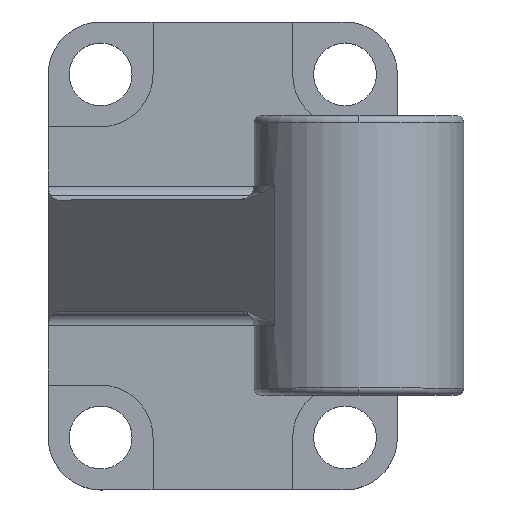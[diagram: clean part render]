
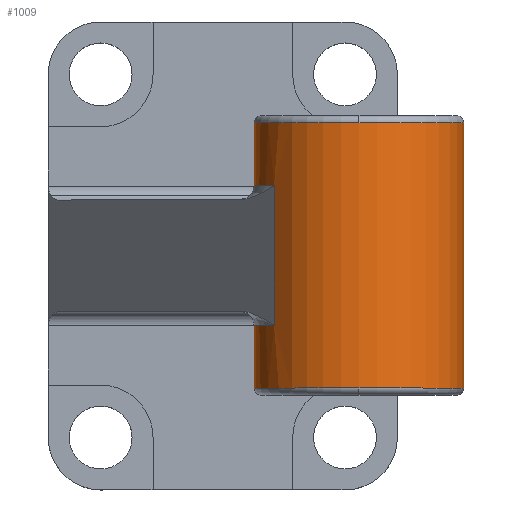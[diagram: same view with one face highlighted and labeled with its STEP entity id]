
A CAD part, top view. The second image highlights one B-rep face of the part: STEP entity #1009.
In plain terms, the highlighted cylindrical face has radius 15 mm (diameter 30 mm), a partial arc.
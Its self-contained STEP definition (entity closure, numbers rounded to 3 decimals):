
#428=CARTESIAN_POINT('',(13.,-18.,46.0));
#429=VERTEX_POINT('',#428);
#437=CARTESIAN_POINT('',(15.839,-18.,54.782));
#438=VERTEX_POINT('',#437);
#439=CARTESIAN_POINT('',(28.,-18.,46.0));
#440=DIRECTION('',(0.0,1.,0.0));
#441=DIRECTION('',(-0.434,0.0,-0.901));
#442=AXIS2_PLACEMENT_3D('',#439,#440,#441);
#443=CIRCLE('',#442,15.0);
#444=EDGE_CURVE('',#429,#438,#443,.T.);
#602=CARTESIAN_POINT('',(15.839,2.,54.782));
#603=VERTEX_POINT('',#602);
#657=CARTESIAN_POINT('',(13.,2.,46.0));
#658=VERTEX_POINT('',#657);
#659=CARTESIAN_POINT('',(28.,2.,46.0));
#660=DIRECTION('',(0.0,-1.0,0.0));
#661=DIRECTION('',(-0.434,0.0,-0.901));
#662=AXIS2_PLACEMENT_3D('',#659,#660,#661);
#663=CIRCLE('',#662,15.0);
#664=EDGE_CURVE('',#603,#658,#663,.T.);
#767=CARTESIAN_POINT('',(28.,-27.,61.0));
#768=VERTEX_POINT('',#767);
#803=CARTESIAN_POINT('',(43.,-27.,46.0));
#804=VERTEX_POINT('',#803);
#812=CARTESIAN_POINT('',(28.,-27.,46.0));
#813=DIRECTION('',(0.0,-1.0,0.0));
#814=DIRECTION('',(-1.0,0.0,0.0));
#815=AXIS2_PLACEMENT_3D('',#812,#813,#814);
#816=CIRCLE('',#815,15.0);
#817=EDGE_CURVE('',#804,#768,#816,.T.);
#827=CARTESIAN_POINT('',(43.,11.,46.0));
#828=VERTEX_POINT('',#827);
#829=CARTESIAN_POINT('',(43.,-27.,46.0));
#830=DIRECTION('',(0.0,1.0,0.0));
#831=VECTOR('',#830,38.0);
#832=LINE('',#829,#831);
#833=EDGE_CURVE('',#804,#828,#832,.T.);
#836=CARTESIAN_POINT('',(13.,-27.,46.0));
#837=VERTEX_POINT('',#836);
#845=CARTESIAN_POINT('',(13.,-18.,46.0));
#846=DIRECTION('',(0.0,-1.0,0.0));
#847=VECTOR('',#846,9.0);
#848=LINE('',#845,#847);
#849=EDGE_CURVE('',#429,#837,#848,.T.);
#877=CARTESIAN_POINT('',(13.,11.,46.0));
#878=VERTEX_POINT('',#877);
#879=CARTESIAN_POINT('',(13.,11.,46.0));
#880=DIRECTION('',(0.0,-1.0,0.0));
#881=VECTOR('',#880,9.0);
#882=LINE('',#879,#881);
#883=EDGE_CURVE('',#878,#658,#882,.T.);
#936=CARTESIAN_POINT('',(28.,11.,61.0));
#937=VERTEX_POINT('',#936);
#945=CARTESIAN_POINT('',(28.,11.,46.0));
#946=DIRECTION('',(0.0,1.0,0.0));
#947=DIRECTION('',(-1.0,0.0,0.0));
#948=AXIS2_PLACEMENT_3D('',#945,#946,#947);
#949=CIRCLE('',#948,15.0);
#950=EDGE_CURVE('',#937,#828,#949,.T.);
#963=CARTESIAN_POINT('',(28.,11.,46.0));
#964=DIRECTION('',(0.0,1.0,0.0));
#965=DIRECTION('',(-1.0,0.0,0.0));
#966=AXIS2_PLACEMENT_3D('',#963,#964,#965);
#967=CIRCLE('',#966,15.0);
#968=EDGE_CURVE('',#878,#937,#967,.T.);
#981=CARTESIAN_POINT('',(28.,-8.,46.0));
#982=DIRECTION('',(0.0,1.0,0.0));
#983=DIRECTION('',(1.0,0.0,0.0));
#984=AXIS2_PLACEMENT_3D('',#981,#982,#983);
#985=CYLINDRICAL_SURFACE('',#984,15.0);
#986=ORIENTED_EDGE('',*,*,#833,.T.);
#987=ORIENTED_EDGE('',*,*,#950,.F.);
#988=ORIENTED_EDGE('',*,*,#968,.F.);
#989=ORIENTED_EDGE('',*,*,#883,.T.);
#990=ORIENTED_EDGE('',*,*,#664,.F.);
#991=CARTESIAN_POINT('',(15.839,2.,54.782));
#992=DIRECTION('',(0.0,-1.0,0.0));
#993=VECTOR('',#992,20.0);
#994=LINE('',#991,#993);
#995=EDGE_CURVE('',#603,#438,#994,.T.);
#996=ORIENTED_EDGE('',*,*,#995,.T.);
#997=ORIENTED_EDGE('',*,*,#444,.F.);
#998=ORIENTED_EDGE('',*,*,#849,.T.);
#999=CARTESIAN_POINT('',(28.,-27.,46.0));
#1000=DIRECTION('',(0.0,-1.0,0.0));
#1001=DIRECTION('',(-1.0,0.0,0.0));
#1002=AXIS2_PLACEMENT_3D('',#999,#1000,#1001);
#1003=CIRCLE('',#1002,15.0);
#1004=EDGE_CURVE('',#768,#837,#1003,.T.);
#1005=ORIENTED_EDGE('',*,*,#1004,.F.);
#1006=ORIENTED_EDGE('',*,*,#817,.F.);
#1007=EDGE_LOOP('',(#986,#987,#988,#989,#990,#996,#997,#998,#1005,#1006));
#1008=FACE_OUTER_BOUND('',#1007,.T.);
#1009=ADVANCED_FACE('',(#1008),#985,.T.);
